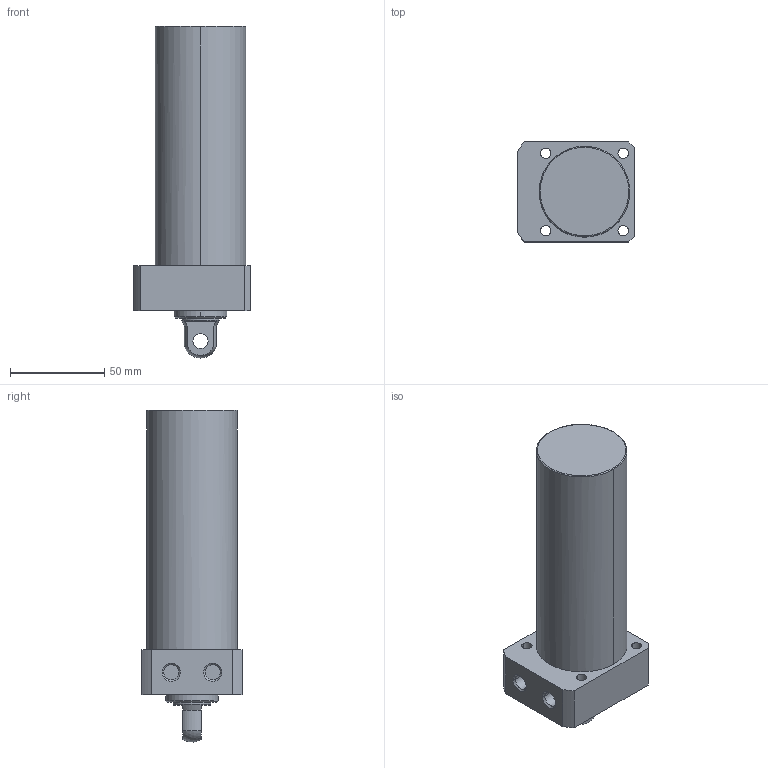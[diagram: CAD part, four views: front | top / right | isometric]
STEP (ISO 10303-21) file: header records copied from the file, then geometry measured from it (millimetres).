
FILE_DESCRIPTION((' '),'2;1');
FILE_NAME( 'TLLR-048CP-100.STEP.stp', '2025-10-24T16:34:40', (' '), ('--- Datakit www.datakit.com---'), ' Datakit CrossCadWare V2024.1 Dec 21 2023', 'Mastercam 2025', ' ');
FILE_SCHEMA(('AUTOMOTIVE_DESIGN { 1 0 10303 214 1 1 1 1 }'));
Length unit declared in the file: millimetre
Products named in the file (1): TLLR-048CP-100
Bounding box: 62 x 53 x 175.94 mm (x, y, z)
Volume: 309301.4 mm3; surface area: 34557.6 mm2
Topology: 1 solids, 1 shells, 57 faces, 164 edges, 116 vertices
Faces by surface type: cylinder 28, plane 18, cone 8, torus 2, sphere 1
Entity records: 2006 total; most frequent: DIRECTION 378, CARTESIAN_POINT 350, ORIENTED_EDGE 328, EDGE_CURVE 164, AXIS2_PLACEMENT_3D 160, VERTEX_POINT 116, CIRCLE 102, EDGE_LOOP 74
